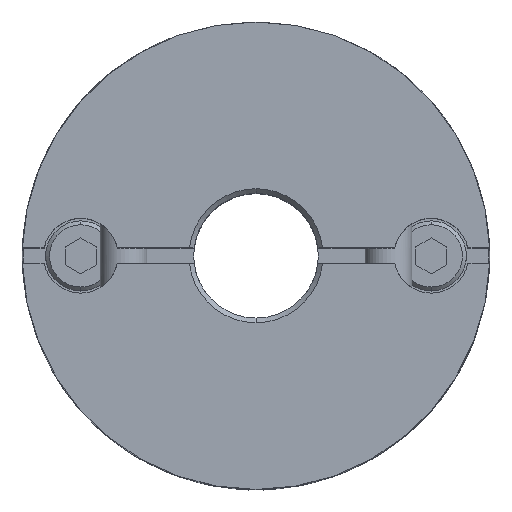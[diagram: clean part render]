
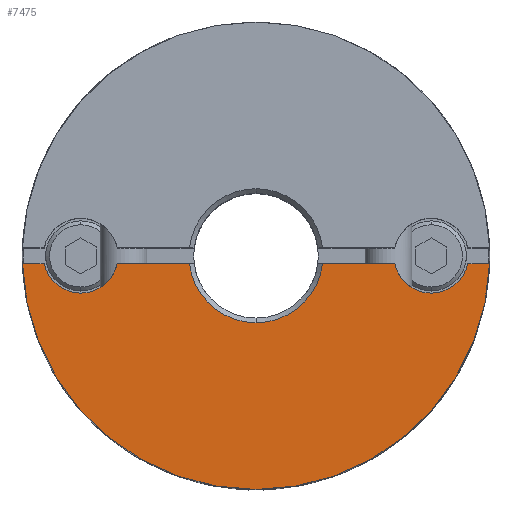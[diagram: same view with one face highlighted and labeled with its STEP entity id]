
A CAD part, top view. The second image highlights one B-rep face of the part: STEP entity #7475.
In plain terms, the highlighted planar face has unit normal (0, 0, 1).
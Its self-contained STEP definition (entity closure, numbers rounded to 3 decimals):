
#622=CARTESIAN_POINT('',(0.,-15.0,11.8));
#623=VERTEX_POINT('',#622);
#630=CARTESIAN_POINT('',(-14.992,-0.5,11.8));
#631=VERTEX_POINT('',#630);
#632=CARTESIAN_POINT('',(0.0,0.0,11.8));
#633=DIRECTION('',(0.0,0.0,-1.0));
#634=DIRECTION('',(0.0,1.0,0.0));
#635=AXIS2_PLACEMENT_3D('',#632,#633,#634);
#636=CIRCLE('',#635,15.0);
#637=EDGE_CURVE('',#623,#631,#636,.T.);
#1032=CARTESIAN_POINT('',(0.,-4.3,11.8));
#1033=VERTEX_POINT('',#1032);
#1041=CARTESIAN_POINT('',(-4.271,-0.5,11.8));
#1042=VERTEX_POINT('',#1041);
#1056=CARTESIAN_POINT('',(0.0,0.0,11.8));
#1057=DIRECTION('',(0.0,0.0,1.0));
#1058=DIRECTION('',(0.0,-1.0,0.0));
#1059=AXIS2_PLACEMENT_3D('',#1056,#1057,#1058);
#1060=CIRCLE('',#1059,4.3);
#1061=EDGE_CURVE('',#1042,#1033,#1060,.T.);
#1353=CARTESIAN_POINT('',(-11.25,-2.4,11.8));
#1354=VERTEX_POINT('',#1353);
#1370=CARTESIAN_POINT('',(-13.597,-0.5,11.8));
#1371=VERTEX_POINT('',#1370);
#1378=CARTESIAN_POINT('',(-11.25,0.,11.8));
#1379=DIRECTION('',(0.0,0.0,-1.0));
#1380=DIRECTION('',(0.0,1.0,0.0));
#1381=AXIS2_PLACEMENT_3D('',#1378,#1379,#1380);
#1382=CIRCLE('',#1381,2.4);
#1383=EDGE_CURVE('',#1354,#1371,#1382,.T.);
#1585=CARTESIAN_POINT('',(11.25,-2.4,11.8));
#1586=VERTEX_POINT('',#1585);
#1652=CARTESIAN_POINT('',(8.903,-0.5,11.8));
#1653=VERTEX_POINT('',#1652);
#1660=CARTESIAN_POINT('',(11.25,0.,11.8));
#1661=DIRECTION('',(0.0,0.0,-1.0));
#1662=DIRECTION('',(0.0,1.0,0.0));
#1663=AXIS2_PLACEMENT_3D('',#1660,#1661,#1662);
#1664=CIRCLE('',#1663,2.4);
#1665=EDGE_CURVE('',#1586,#1653,#1664,.T.);
#5973=CARTESIAN_POINT('',(13.597,-0.5,11.8));
#5974=VERTEX_POINT('',#5973);
#5975=CARTESIAN_POINT('',(11.25,0.,11.8));
#5976=DIRECTION('',(0.0,0.0,-1.0));
#5977=DIRECTION('',(0.0,1.0,0.0));
#5978=AXIS2_PLACEMENT_3D('',#5975,#5976,#5977);
#5979=CIRCLE('',#5978,2.4);
#5980=EDGE_CURVE('',#5974,#1586,#5979,.T.);
#6380=CARTESIAN_POINT('',(-8.903,-0.5,11.8));
#6381=VERTEX_POINT('',#6380);
#6382=CARTESIAN_POINT('',(-11.25,0.,11.8));
#6383=DIRECTION('',(0.0,0.0,-1.0));
#6384=DIRECTION('',(0.0,1.0,0.0));
#6385=AXIS2_PLACEMENT_3D('',#6382,#6383,#6384);
#6386=CIRCLE('',#6385,2.4);
#6387=EDGE_CURVE('',#6381,#1354,#6386,.T.);
#6510=CARTESIAN_POINT('',(-4.271,-0.5,11.8));
#6511=DIRECTION('',(-1.0,0.0,0.0));
#6512=VECTOR('',#6511,4.632);
#6513=LINE('',#6510,#6512);
#6514=EDGE_CURVE('',#1042,#6381,#6513,.T.);
#6627=CARTESIAN_POINT('',(4.271,-0.5,11.8));
#6628=VERTEX_POINT('',#6627);
#6642=CARTESIAN_POINT('',(8.903,-0.5,11.8));
#6643=DIRECTION('',(-1.0,0.0,0.0));
#6644=VECTOR('',#6643,4.632);
#6645=LINE('',#6642,#6644);
#6646=EDGE_CURVE('',#1653,#6628,#6645,.T.);
#7222=CARTESIAN_POINT('',(14.992,-0.5,11.8));
#7223=VERTEX_POINT('',#7222);
#7224=CARTESIAN_POINT('',(14.992,-0.5,11.8));
#7225=DIRECTION('',(-1.0,0.0,0.0));
#7226=VECTOR('',#7225,1.394);
#7227=LINE('',#7224,#7226);
#7228=EDGE_CURVE('',#7223,#5974,#7227,.T.);
#7342=CARTESIAN_POINT('',(-13.597,-0.5,11.8));
#7343=DIRECTION('',(-1.0,0.0,0.0));
#7344=VECTOR('',#7343,1.394);
#7345=LINE('',#7342,#7344);
#7346=EDGE_CURVE('',#1371,#631,#7345,.T.);
#7444=CARTESIAN_POINT('',(0.,1.364,11.8));
#7445=DIRECTION('',(0.0,0.0,1.0));
#7446=DIRECTION('',(0.0,1.0,0.0));
#7447=AXIS2_PLACEMENT_3D('',#7444,#7445,#7446);
#7448=PLANE('',#7447);
#7449=ORIENTED_EDGE('',*,*,#5980,.T.);
#7450=ORIENTED_EDGE('',*,*,#1665,.T.);
#7451=ORIENTED_EDGE('',*,*,#6646,.T.);
#7452=CARTESIAN_POINT('',(0.0,0.0,11.8));
#7453=DIRECTION('',(0.0,0.0,1.0));
#7454=DIRECTION('',(0.0,-1.0,0.0));
#7455=AXIS2_PLACEMENT_3D('',#7452,#7453,#7454);
#7456=CIRCLE('',#7455,4.3);
#7457=EDGE_CURVE('',#1033,#6628,#7456,.T.);
#7458=ORIENTED_EDGE('',*,*,#7457,.F.);
#7459=ORIENTED_EDGE('',*,*,#1061,.F.);
#7460=ORIENTED_EDGE('',*,*,#6514,.T.);
#7461=ORIENTED_EDGE('',*,*,#6387,.T.);
#7462=ORIENTED_EDGE('',*,*,#1383,.T.);
#7463=ORIENTED_EDGE('',*,*,#7346,.T.);
#7464=ORIENTED_EDGE('',*,*,#637,.F.);
#7465=CARTESIAN_POINT('',(0.0,0.0,11.8));
#7466=DIRECTION('',(0.0,0.0,-1.0));
#7467=DIRECTION('',(0.0,1.0,0.0));
#7468=AXIS2_PLACEMENT_3D('',#7465,#7466,#7467);
#7469=CIRCLE('',#7468,15.0);
#7470=EDGE_CURVE('',#7223,#623,#7469,.T.);
#7471=ORIENTED_EDGE('',*,*,#7470,.F.);
#7472=ORIENTED_EDGE('',*,*,#7228,.T.);
#7473=EDGE_LOOP('',(#7449,#7450,#7451,#7458,#7459,#7460,#7461,#7462,#7463,#7464,#7471,#7472));
#7474=FACE_OUTER_BOUND('',#7473,.T.);
#7475=ADVANCED_FACE('',(#7474),#7448,.T.);
